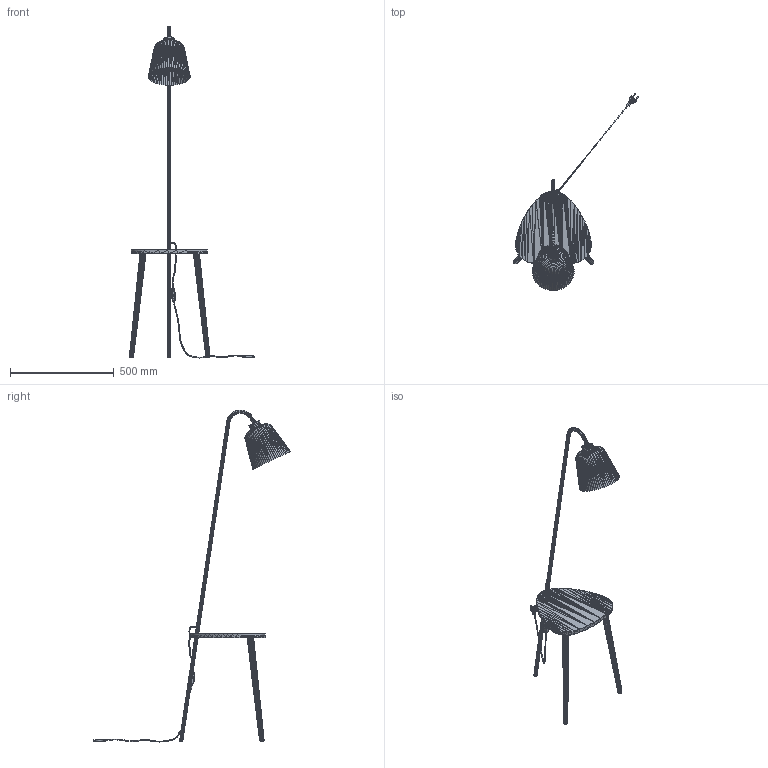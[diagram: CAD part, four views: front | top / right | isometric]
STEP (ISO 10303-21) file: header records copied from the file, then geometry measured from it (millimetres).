
FILE_DESCRIPTION(('FreeCAD Model'),'2;1');
FILE_NAME('Open CASCADE Shape Model','2022-11-29T21:11:21',('Author'),( ''),'Open CASCADE STEP processor 7.6','FreeCAD','Unknown');
FILE_SCHEMA(('AUTOMOTIVE_DESIGN { 1 0 10303 214 1 1 1 1 }'));
Length unit declared in the file: millimetre
Products named in the file (16): Unnamed; Mesh026001 (Solid); Mesh027 (Solid); Mesh001001 (Solid); Mesh002001 (Solid); Mesh003001 (Solid); Mesh004001 (Solid); Mesh005001 (Solid); Mesh006001 (Solid); Mesh007001 (Solid); Mesh008001 (Solid); Mesh009001 (Solid); Mesh022001 (Solid); Mesh023001 (Solid); Mesh024001 (Solid); Mesh025001 (Solid)
Assembly tree (15 placements, depth 2):
  Unnamed
    Mesh026001 (Solid)
    Mesh027 (Solid)
    Mesh001001 (Solid)
    Mesh002001 (Solid)
    Mesh003001 (Solid)
    Mesh004001 (Solid)
    Mesh005001 (Solid)
    Mesh006001 (Solid)
    Mesh007001 (Solid)
    Mesh008001 (Solid)
    Mesh009001 (Solid)
    Mesh022001 (Solid)
    Mesh023001 (Solid)
    Mesh024001 (Solid)
    Mesh025001 (Solid)
Bounding box: 601.46 x 949.62 x 1596.8 mm (x, y, z)
Volume: 2474550.5 mm3; surface area: 627473.6 mm2
Topology: 10 solids, 47 shells, 17898 faces, 26908 edges, 9046 vertices
Faces by surface type: plane 17898
Entity records: 715918 total; most frequent: DIRECTION 119244, CARTESIAN_POINT 110136, LINE 82488, VECTOR 82488, ORIENTED_EDGE 55086, PCURVE 54892, DEFINITIONAL_REPRESENTATION 54892, EDGE_CURVE 27596
